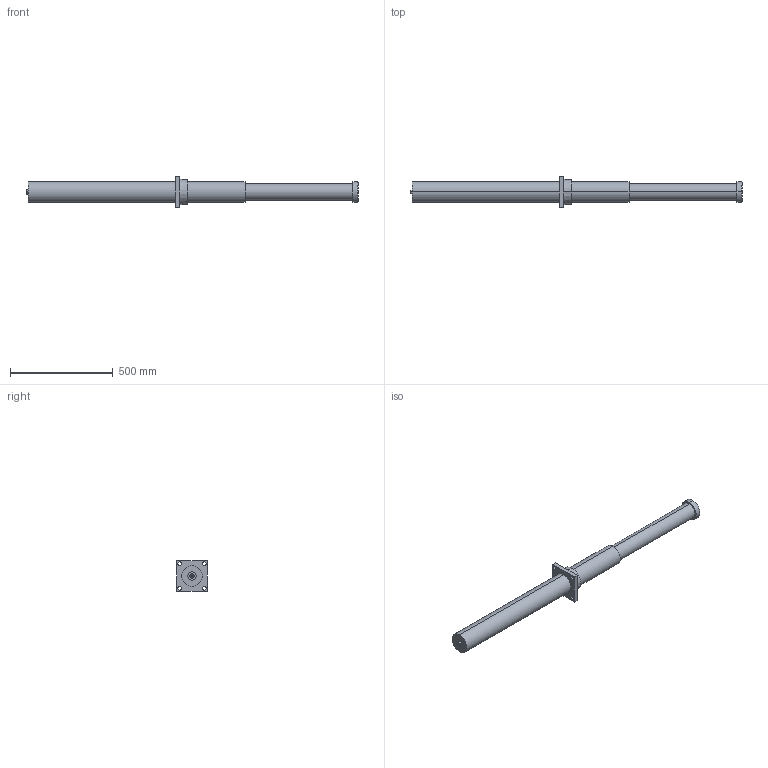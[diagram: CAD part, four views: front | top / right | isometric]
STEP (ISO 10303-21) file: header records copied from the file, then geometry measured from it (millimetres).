
FILE_DESCRIPTION (( 'STEP AP214' ), '1' );
FILE_NAME ('LDH100X500FF.STEP', '2019-01-21T04:56:29', ( 'user' ), ( 'Microsoft' ), 'SwSTEP 2.0', 'SolidWorks 2016', '' );
FILE_SCHEMA (( 'AUTOMOTIVE_DESIGN' ));
Length unit declared in the file: millimetre
Products named in the file (1): LDH100X500FF
Bounding box: 1616 x 150 x 150 mm (x, y, z)
Volume: 11536330.1 mm3; surface area: 535559 mm2
Topology: 1 solids, 5 shells, 65 faces, 140 edges, 92 vertices
Faces by surface type: cylinder 30, plane 29, cone 6
Entity records: 1840 total; most frequent: DIRECTION 348, CARTESIAN_POINT 298, ORIENTED_EDGE 280, AXIS2_PLACEMENT_3D 142, EDGE_CURVE 140, VERTEX_POINT 92, EDGE_LOOP 80, CIRCLE 76
